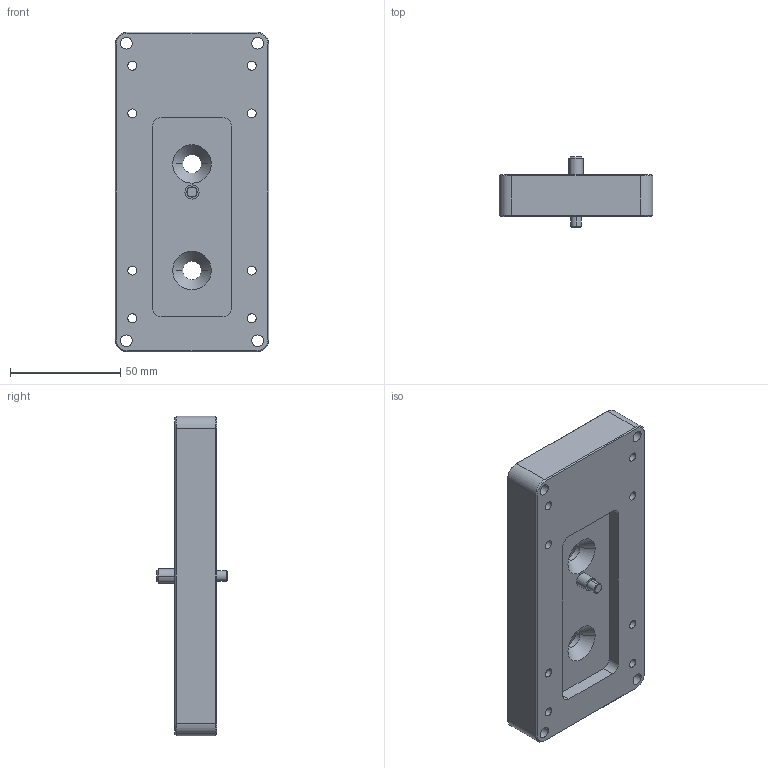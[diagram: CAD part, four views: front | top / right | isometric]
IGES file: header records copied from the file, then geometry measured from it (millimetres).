
Global section: file name: No Iges File Name specified; native system: Autodesk Inventor 2010; preprocessor: AutoDesk Inventor Iges Exporter R2010; author: mlampen; date: 20170424.125019; units: inch
Bounding box: 69.6 x 31.75 x 144.78 mm (x, y, z)
Volume: 163992.3 mm3; surface area: 32554.2 mm2
Topology: 1 solids, 1 shells, 84 faces, 206 edges, 128 vertices
Faces by surface type: revolution 40, plane 21, cone 12, cylinder 10, bspline 1
